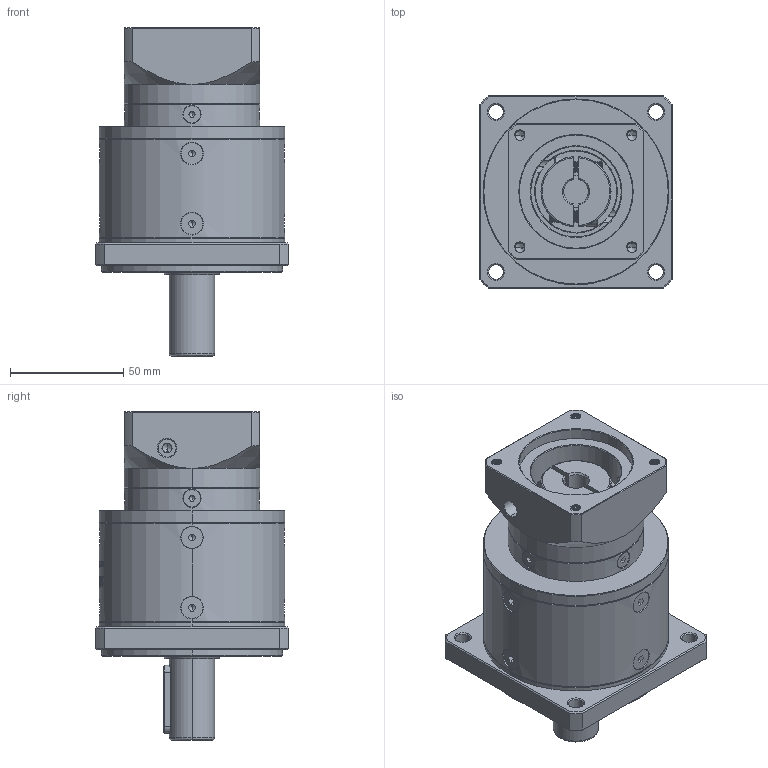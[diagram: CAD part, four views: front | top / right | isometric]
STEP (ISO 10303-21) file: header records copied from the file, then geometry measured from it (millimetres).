
FILE_DESCRIPTION (( 'STEP AP214' ), '1' );
FILE_NAME ('ZF80-D20-L2-11-50-70-M5.step', '2022-05-08T09:22:37', ( '' ), ( 'Microsoft' ), 'SwSTEP 2.0', 'SolidWorks 2016', '' );
FILE_SCHEMA (( 'AUTOMOTIVE_DESIGN' ));
Length unit declared in the file: millimetre
Products named in the file (1): ZF80-D20-L2-11-50-70-M5
Bounding box: 85 x 85 x 145 mm (x, y, z)
Volume: 469339.4 mm3; surface area: 68075.3 mm2
Topology: 18 solids, 18 shells, 2042 faces, 5339 edges, 3393 vertices
Faces by surface type: plane 948, cylinder 425, bspline 328, cone 327, torus 14
Entity records: 110920 total; most frequent: CARTESIAN_POINT 41782, ORIENTED_EDGE 10602, DIRECTION 8452, EDGE_CURVE 5301, VERTEX_POINT 3393, VECTOR 2864, LINE 2864, AXIS2_PLACEMENT_3D 2794
